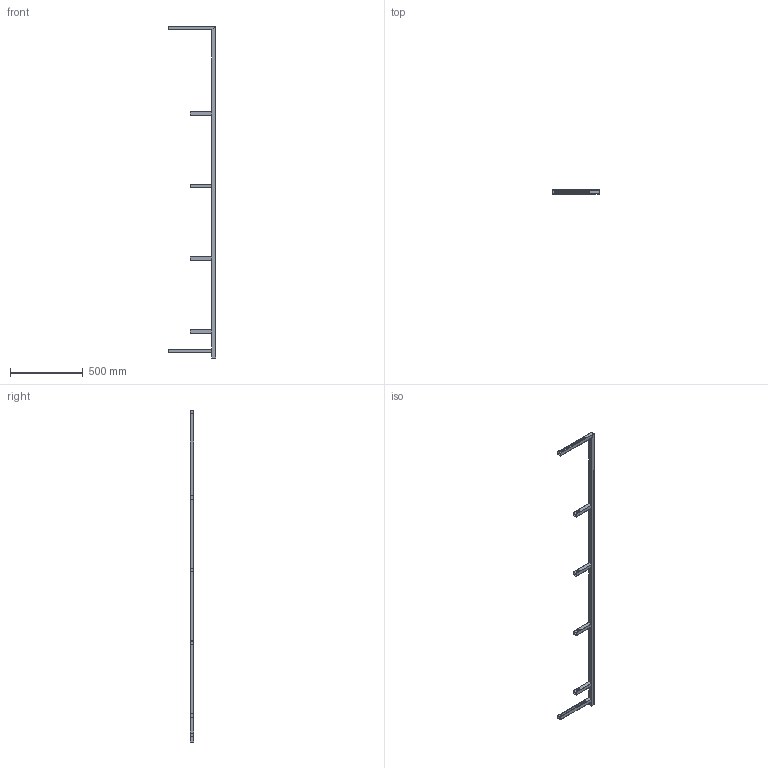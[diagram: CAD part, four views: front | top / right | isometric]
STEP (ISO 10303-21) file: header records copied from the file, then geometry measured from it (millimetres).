
FILE_DESCRIPTION(/* description */ ('(C) Elphel, Inc. 2012. Licensed under CERN OHL v.1.1 or later, see http://ohwr.org/cernohl'),/* implementation_level */ '2;1');
FILE_NAME(/* name */ '0353-25-21B',/* time_stamp */ '2012-06-08T14:24:45-06:00',/* author */ (''),/* organization */ ('Elphel, Inc'),/* preprocessor_version */ 'ST-DEVELOPER v12',/* originating_system */ 'VariCAD 2012-1.04; kernel version (20100102)',/* authorisation */ '');
FILE_SCHEMA (('AUTOMOTIVE_DESIGN'));
Length unit declared in the file: millimetre
Products named in the file (1): Part
Bounding box: 325.4 x 25.4 x 2283.2 mm (x, y, z)
Volume: 510796.5 mm3; surface area: 647618.4 mm2
Topology: 9 solids, 9 shells, 169 faces, 402 edges, 248 vertices
Faces by surface type: plane 89, cylinder 64, cone 16
Entity records: 6223 total; most frequent: DIRECTION 888, CARTESIAN_POINT 829, ORIENTED_EDGE 804, EDGE_CURVE 402, AXIS2_PLACEMENT_3D 307, LINE 274, VECTOR 274, VERTEX_POINT 248
